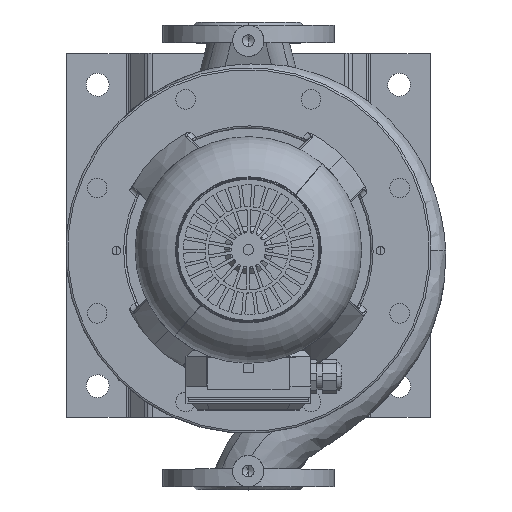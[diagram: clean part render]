
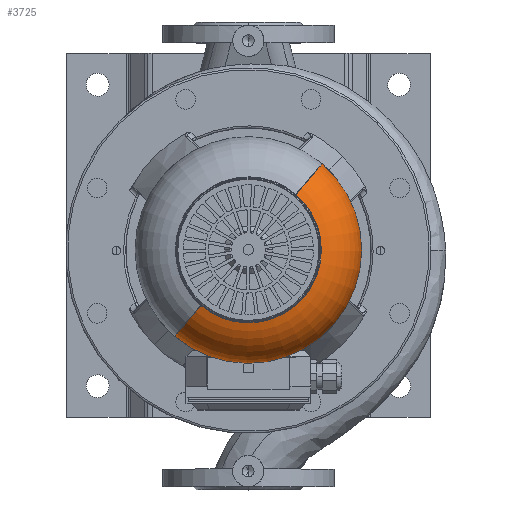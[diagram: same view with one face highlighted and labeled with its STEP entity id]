
A CAD part, top view. The second image highlights one B-rep face of the part: STEP entity #3725.
In plain terms, the highlighted toroidal (fillet/blend) face has major radius 59 mm and minor radius 50 mm.
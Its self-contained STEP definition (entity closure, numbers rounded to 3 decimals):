
#3725=ADVANCED_FACE('NONE',(#10025),#10026,.T.);
#10025=FACE_OUTER_BOUND('',#17388,.T.);
#10026=TOROIDAL_SURFACE('',#17389,59.0,50.0);
#17388=EDGE_LOOP('',(#26309,#26310,#26311,#26312));
#17389=AXIS2_PLACEMENT_3D('',#26313,#26314,#26315);
#26309=ORIENTED_EDGE('',*,*,#36377,.F.);
#26310=ORIENTED_EDGE('',*,*,#36376,.T.);
#26311=ORIENTED_EDGE('',*,*,#36378,.F.);
#26312=ORIENTED_EDGE('',*,*,#36379,.T.);
#26313=CARTESIAN_POINT('',(49.225,0.0,0.0));
#26314=DIRECTION('',(1.0,0.,0.));
#26315=DIRECTION('',(0.,0.,-1.0));
#36376=EDGE_CURVE('NONE',#45781,#45785,#45787,.T.);
#36377=EDGE_CURVE('',#45781,#45788,#45789,.T.);
#36378=EDGE_CURVE('',#45790,#45785,#45791,.T.);
#36379=EDGE_CURVE('NONE',#45790,#45788,#45792,.T.);
#45781=VERTEX_POINT('',#61165);
#45785=VERTEX_POINT('NONE',#61170);
#45787=CIRCLE('',#61173,109.);
#45788=VERTEX_POINT('NONE',#61174);
#45789=CIRCLE('',#61175,50.0);
#45790=VERTEX_POINT('',#61176);
#45791=CIRCLE('',#61177,50.0);
#45792=CIRCLE('',#61178,70.229);
#61165=CARTESIAN_POINT('',(49.225,0.,-109.));
#61170=CARTESIAN_POINT('',(49.225,0.,109.0));
#61173=AXIS2_PLACEMENT_3D('',#69101,#69102,#69103);
#61174=CARTESIAN_POINT('',(97.948,0.,-70.229));
#61175=AXIS2_PLACEMENT_3D('',#69104,#69105,#69106);
#61176=CARTESIAN_POINT('',(97.948,0.,70.229));
#61177=AXIS2_PLACEMENT_3D('',#69107,#69108,#69109);
#61178=AXIS2_PLACEMENT_3D('',#69110,#69111,#69112);
#69101=CARTESIAN_POINT('',(49.225,0.0,0.0));
#69102=DIRECTION('',(1.0,0.,0.));
#69103=DIRECTION('',(0.,0.,-1.0));
#69104=CARTESIAN_POINT('',(49.225,0.,-59.0));
#69105=DIRECTION('',(0.,-1.0,0.));
#69106=DIRECTION('',(0.,0.,-1.0));
#69107=CARTESIAN_POINT('',(49.225,0.,59.0));
#69108=DIRECTION('',(0.,-1.0,0.));
#69109=DIRECTION('',(0.,0.,1.0));
#69110=CARTESIAN_POINT('',(97.948,0.0,0.0));
#69111=DIRECTION('',(-1.0,0.,0.));
#69112=DIRECTION('',(0.,0.,1.0));
